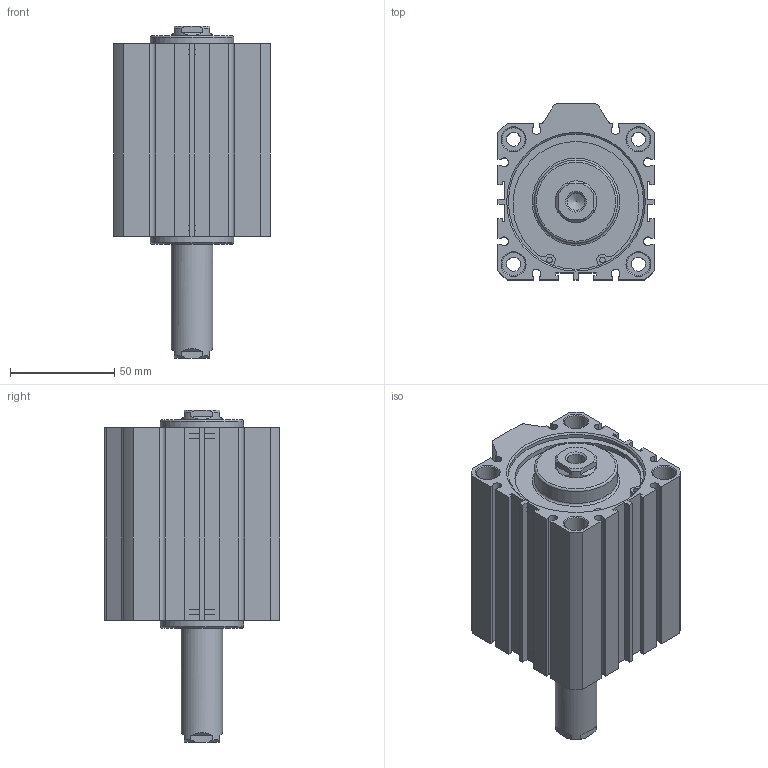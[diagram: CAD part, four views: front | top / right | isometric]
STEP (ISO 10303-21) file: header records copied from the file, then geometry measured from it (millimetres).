
FILE_DESCRIPTION((''),'2;1');
FILE_NAME('I:\3D電子目錄\氣缸\JDD\JDD-S\JDD63-S\JDD63x50-S.stp','2007-02-09T08:55:22',('662F206'),(''),'Autodesk Inventor 10','Autodesk Inventor 10','');
FILE_SCHEMA(('AUTOMOTIVE_DESIGN { 1 0 10303 214 1 1 1 1 }'));
Length unit declared in the file: millimetre
Products named in the file (3): JDD63-S; R 形環 65
Assembly tree (3 placements, depth 2):
  JDD63-S
    JDD63-S
    R 形環 65  x2
Bounding box: 75 x 84.5 x 159.5 mm (x, y, z)
Volume: 499327.4 mm3; surface area: 75537.2 mm2
Topology: 3 solids, 3 shells, 204 faces, 514 edges, 338 vertices
Faces by surface type: plane 116, cylinder 56, cone 24, bspline 6, torus 2
Full cylindrical faces by diameter (mm): 2.7 x4, 3 x2, 6.8 x4, 11 x8, 20 x2, 40 x2, 65 x4, 68 x2
Entity records: 5651 total; most frequent: CARTESIAN_POINT 1118, DIRECTION 936, ORIENTED_EDGE 848, EDGE_CURVE 424, AXIS2_PLACEMENT_3D 336, VERTEX_POINT 308, EDGE_LOOP 276, VECTOR 264
